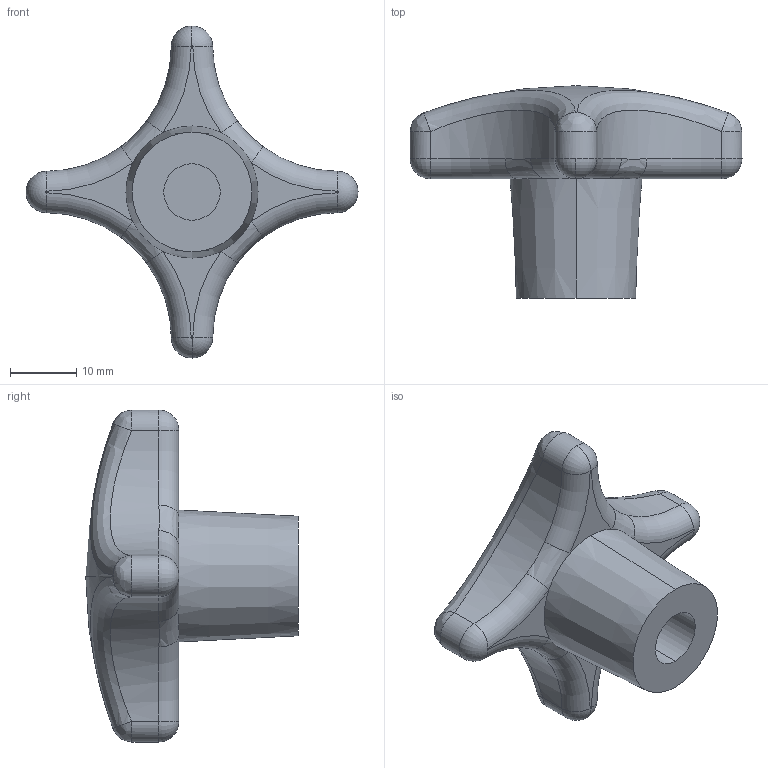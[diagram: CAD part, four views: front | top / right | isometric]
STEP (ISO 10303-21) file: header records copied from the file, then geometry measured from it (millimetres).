
FILE_DESCRIPTION (( 'STEP AP203' ), '1' );
FILE_NAME ('7000.W450.step', '2010-01-29T17:38:52', ( 'Wixroyd' ), ( 'Wixroyd' ), 'SwSTEP 2.0', 'SolidWorks 2009', '' );
FILE_SCHEMA (( 'CONFIG_CONTROL_DESIGN' ));
Length unit declared in the file: millimetre
Products named in the file (1): 7000.W450
Bounding box: 50 x 32 x 50 mm (x, y, z)
Volume: 14318.3 mm3; surface area: 4764.8 mm2
Topology: 1 solids, 1 shells, 47 faces, 108 edges, 64 vertices
Faces by surface type: torus 14, bspline 12, cylinder 11, plane 6, cone 2, sphere 2
Entity records: 7480 total; most frequent: CARTESIAN_POINT 6363, DIRECTION 229, ORIENTED_EDGE 216, EDGE_CURVE 108, AXIS2_PLACEMENT_3D 108, CIRCLE 72, VERTEX_POINT 64, EDGE_LOOP 48
